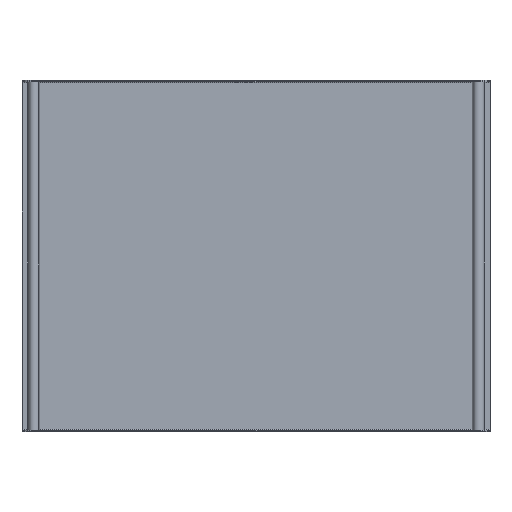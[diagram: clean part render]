
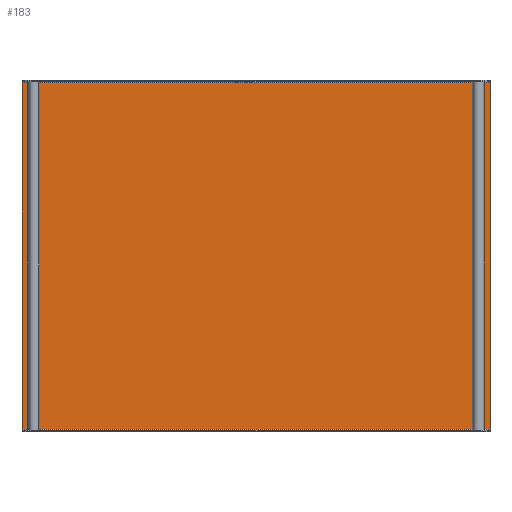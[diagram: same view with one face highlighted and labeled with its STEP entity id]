
A CAD part, top view. The second image highlights one B-rep face of the part: STEP entity #183.
In plain terms, the highlighted planar face has unit normal (0, 0, 1).
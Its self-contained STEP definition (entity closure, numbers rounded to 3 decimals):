
#7 = DIRECTION ( 'NONE',  ( 0., 0., 1. ) ) ;
#78 = VECTOR ( 'NONE', #1244, 1000. ) ;
#100 = PLANE ( 'NONE',  #1271 ) ;
#129 = VECTOR ( 'NONE', #1489, 1000. ) ;
#146 = CARTESIAN_POINT ( 'NONE',  ( -246.628, -152.371, 384. ) ) ;
#182 = LINE ( 'NONE', #1362, #129 ) ;
#183 = ADVANCED_FACE ( 'NONE', ( #1086 ), #100, .T. ) ;
#291 = CARTESIAN_POINT ( 'NONE',  ( -246.628, -154.371, 384. ) ) ;
#374 = ORIENTED_EDGE ( 'NONE', *, *, #1176, .T. ) ;
#423 = DIRECTION ( 'NONE',  ( 0., 1., 0. ) ) ;
#501 = VERTEX_POINT ( 'NONE', #146 ) ;
#552 = VECTOR ( 'NONE', #423, 1000. ) ;
#617 = EDGE_CURVE ( 'NONE', #860, #1216, #182, .T. ) ;
#714 = DIRECTION ( 'NONE',  ( -1., 0., 0. ) ) ;
#755 = LINE ( 'NONE', #291, #78 ) ;
#773 = VERTEX_POINT ( 'NONE', #1535 ) ;
#840 = EDGE_CURVE ( 'NONE', #773, #501, #1162, .T. ) ;
#860 = VERTEX_POINT ( 'NONE', #963 ) ;
#957 = DIRECTION ( 'NONE',  ( 1., 0., 0. ) ) ;
#963 = CARTESIAN_POINT ( 'NONE',  ( -246.628, 143.629, 384. ) ) ;
#1030 = CARTESIAN_POINT ( 'NONE',  ( 153.372, -154.371, 384. ) ) ;
#1042 = EDGE_LOOP ( 'NONE', ( #374, #1046, #1264, #1468 ) ) ;
#1046 = ORIENTED_EDGE ( 'NONE', *, *, #617, .F. ) ;
#1086 = FACE_OUTER_BOUND ( 'NONE', #1042, .T. ) ;
#1162 = LINE ( 'NONE', #1190, #1405 ) ;
#1176 = EDGE_CURVE ( 'NONE', #773, #1216, #1256, .T. ) ;
#1187 = CARTESIAN_POINT ( 'NONE',  ( 153.372, 143.629, 384. ) ) ;
#1190 = CARTESIAN_POINT ( 'NONE',  ( 153.372, -152.371, 384. ) ) ;
#1216 = VERTEX_POINT ( 'NONE', #1187 ) ;
#1244 = DIRECTION ( 'NONE',  ( 0., -1., 0. ) ) ;
#1256 = LINE ( 'NONE', #1030, #552 ) ;
#1264 = ORIENTED_EDGE ( 'NONE', *, *, #1402, .T. ) ;
#1271 = AXIS2_PLACEMENT_3D ( 'NONE', #1556, #7, #957 ) ;
#1362 = CARTESIAN_POINT ( 'NONE',  ( -246.628, 143.629, 384. ) ) ;
#1402 = EDGE_CURVE ( 'NONE', #860, #501, #755, .T. ) ;
#1405 = VECTOR ( 'NONE', #714, 1000. ) ;
#1468 = ORIENTED_EDGE ( 'NONE', *, *, #840, .F. ) ;
#1489 = DIRECTION ( 'NONE',  ( 1., 0., 0. ) ) ;
#1535 = CARTESIAN_POINT ( 'NONE',  ( 153.372, -152.371, 384. ) ) ;
#1556 = CARTESIAN_POINT ( 'NONE',  ( -46.628, -4.371, 384. ) ) ;
